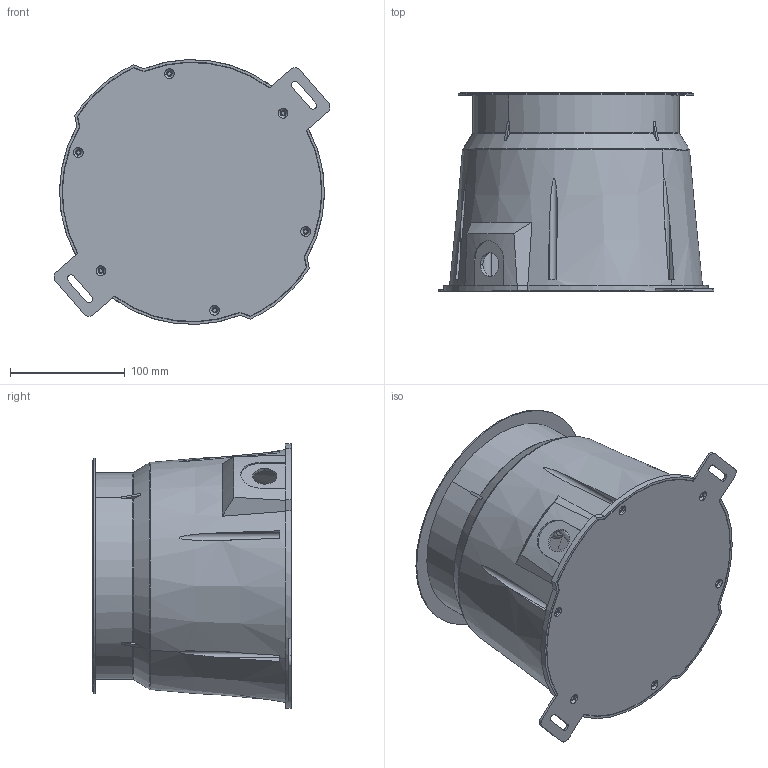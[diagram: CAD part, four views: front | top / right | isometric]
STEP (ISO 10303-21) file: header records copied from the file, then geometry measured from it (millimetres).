
FILE_DESCRIPTION((''),'2;1');
FILE_NAME('4FB_ASM','2024-11-12T',('Administrator'),(''),'CREO PARAMETRIC BY PTC INC, 2014500','CREO PARAMETRIC BY PTC INC, 2014500','');
FILE_SCHEMA(('CONFIG_CONTROL_DESIGN'));
Length unit declared in the file: millimetre
Products named in the file (25): 4ZADT_97; 4ZB-MIANGAI_94; COB-BIG_ASM_96_ASM; 4ZB3-BOLI_92; LUO-MAO-1_2_3_92; LUO-GAN-2_1_2_92; DIAN-QUAN-5_1_2_92; 4XCX_4_2_92; PG11-NUT_92; PG11_ASM_93_ASM; SUS304BOSS_92; 4ZB-BSRKUAI_53; 4ZB-SANREBAN_106; 4ZBLJB-49_96; B15-4_69; B15-5_69; 002_ASM_69_ASM; 4ZB-NEW-SLEEVE-02_62; 4XC-YMT-DIGAI_62; 4ZBFST_62; 4ZAFST_63; 4XC-SLEEVE-02_ASM_62_ASM; 4ZB-FGQ-006_27; 4ZB_ASM_95_ASM; 4FB_ASM
Assembly tree (36 placements, depth 4):
  4FB_ASM
    4ZB_ASM_95_ASM
      COB-BIG_ASM_96_ASM
        4ZADT_97
        4ZB-MIANGAI_94
      4ZB3-BOLI_92
      PG11_ASM_93_ASM
        LUO-MAO-1_2_3_92
        LUO-GAN-2_1_2_92
        DIAN-QUAN-5_1_2_92
        4XCX_4_2_92
        PG11-NUT_92
      SUS304BOSS_92  x8
      4ZB-BSRKUAI_53
      4ZB-SANREBAN_106
      4ZBLJB-49_96
      002_ASM_69_ASM  x6
        B15-4_69
        B15-5_69
      4XC-SLEEVE-02_ASM_62_ASM
        4ZB-NEW-SLEEVE-02_62
        4XC-YMT-DIGAI_62
        4ZBFST_62
        4ZAFST_63
      4ZB-FGQ-006_27
Bounding box: 240.6 x 173 x 230.87 mm (x, y, z)
Volume: 856632.7 mm3; surface area: 720965.9 mm2
Topology: 36 solids, 36 shells, 3178 faces, 9376 edges, 6276 vertices
Faces by surface type: plane 1654, cylinder 1032, torus 196, cone 194, bspline 102
Entity records: 80598 total; most frequent: CARTESIAN_POINT 25102, ORIENTED_EDGE 11758, DIRECTION 11625, EDGE_CURVE 5879, AXIS2_PLACEMENT_3D 4392, VERTEX_POINT 3967, VECTOR 2841, LINE 2841
